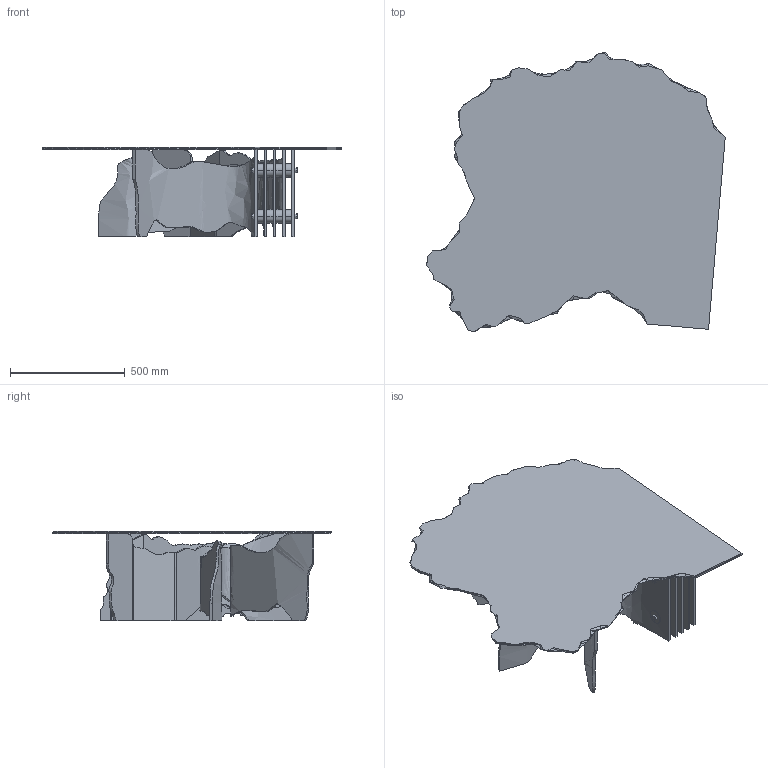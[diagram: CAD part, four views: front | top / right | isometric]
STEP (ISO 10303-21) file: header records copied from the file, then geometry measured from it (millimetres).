
FILE_DESCRIPTION(/* description */ (''),/* implementation_level */ '2;1');
FILE_NAME(/* name */ '3D_SHE~1',/* time_stamp */ '2024-01-16T10:59:10+01:00',/* author */ (''),/* organization */ (''),/* preprocessor_version */ 'ST-DEVELOPER v16.5',/* originating_system */ '',/* authorisation */ '');
FILE_SCHEMA (('AUTOMOTIVE_DESIGN'));
Length unit declared in the file: millimetre
Products named in the file (1): Document
Bounding box: 1302.16 x 1220 x 392 mm (x, y, z)
Volume: 32033194.5 mm3; surface area: 5616488.3 mm2
Topology: 23 solids, 23 shells, 411 faces, 953 edges, 564 vertices
Faces by surface type: bspline 331, plane 80
Entity records: 17471 total; most frequent: CARTESIAN_POINT 12205, ORIENTED_EDGE 1858, EDGE_CURVE 929, VERTEX_POINT 564, ADVANCED_FACE 411, FACE_OUTER_BOUND 411, EDGE_LOOP 411, B_SPLINE_CURVE_WITH_KNOTS 304
